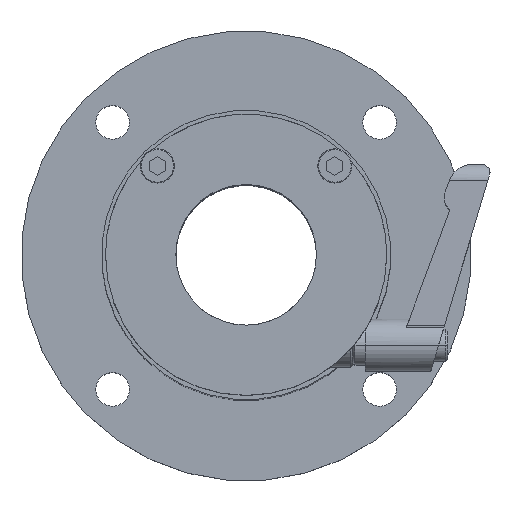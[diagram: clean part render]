
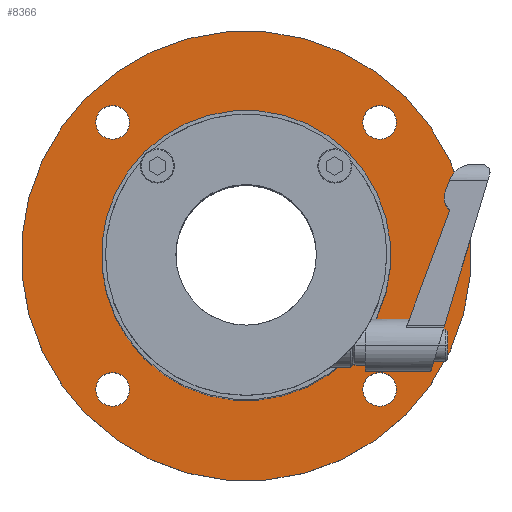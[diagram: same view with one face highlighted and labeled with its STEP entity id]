
A CAD part, top view. The second image highlights one B-rep face of the part: STEP entity #8366.
In plain terms, the highlighted planar face has unit normal (0, 0, 1).
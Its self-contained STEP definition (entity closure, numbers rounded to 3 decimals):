
#26 = AXIS2_PLACEMENT_3D ( 'NONE', #1949, #8295, #3979 ) ;
#104 = EDGE_LOOP ( 'NONE', ( #7844, #1511 ) ) ;
#124 = ORIENTED_EDGE ( 'NONE', *, *, #1507, .T. ) ;
#164 = VERTEX_POINT ( 'NONE', #9029 ) ;
#240 = DIRECTION ( 'NONE',  ( -0.707, 0.707, 0. ) ) ;
#296 = PLANE ( 'NONE',  #6327 ) ;
#352 = CIRCLE ( 'NONE', #7277, 4.188 ) ;
#423 = DIRECTION ( 'NONE',  ( -0.707, -0.707, 0. ) ) ;
#445 = DIRECTION ( 'NONE',  ( 0., 0., -1. ) ) ;
#496 = EDGE_CURVE ( 'NONE', #5729, #3247, #6717, .T. ) ;
#502 = AXIS2_PLACEMENT_3D ( 'NONE', #1105, #3818, #6800 ) ;
#651 = EDGE_LOOP ( 'NONE', ( #6822, #6470 ) ) ;
#766 = CARTESIAN_POINT ( 'NONE',  ( 35.216, 27.865, 92.392 ) ) ;
#789 = CARTESIAN_POINT ( 'NONE',  ( -37.616, -44.967, 92.392 ) ) ;
#791 = CARTESIAN_POINT ( 'NONE',  ( -28.29, 30.827, 92.392 ) ) ;
#1105 = CARTESIAN_POINT ( 'NONE',  ( 1.982, -5.369, 92.392 ) ) ;
#1245 = CARTESIAN_POINT ( 'NONE',  ( -28.29, -41.564, 92.392 ) ) ;
#1298 = CIRCLE ( 'NONE', #4977, 4.188 ) ;
#1381 = DIRECTION ( 'NONE',  ( 0.707, -0.707, 0. ) ) ;
#1382 = EDGE_LOOP ( 'NONE', ( #124, #6516 ) ) ;
#1423 = VERTEX_POINT ( 'NONE', #3656 ) ;
#1507 = EDGE_CURVE ( 'NONE', #8161, #5897, #5578, .T. ) ;
#1511 = ORIENTED_EDGE ( 'NONE', *, *, #9187, .F. ) ;
#1581 = DIRECTION ( 'NONE',  ( 0., 0., 1. ) ) ;
#1597 = DIRECTION ( 'NONE',  ( -0.707, -0.707, 0. ) ) ;
#1627 = DIRECTION ( 'NONE',  ( 0., 0., -1. ) ) ;
#1676 = FACE_BOUND ( 'NONE', #3166, .T. ) ;
#1822 = CIRCLE ( 'NONE', #8632, 4.188 ) ;
#1858 = DIRECTION ( 'NONE',  ( 0., 0., -1. ) ) ;
#1949 = CARTESIAN_POINT ( 'NONE',  ( 35.216, 27.865, 92.392 ) ) ;
#1979 = CARTESIAN_POINT ( 'NONE',  ( 1.982, -5.369, 92.392 ) ) ;
#2004 = VERTEX_POINT ( 'NONE', #6414 ) ;
#2116 = ORIENTED_EDGE ( 'NONE', *, *, #4138, .T. ) ;
#2218 = CARTESIAN_POINT ( 'NONE',  ( 41.58, 34.229, 92.392 ) ) ;
#2288 = CARTESIAN_POINT ( 'NONE',  ( 1.982, -5.369, 92.392 ) ) ;
#2396 = CIRCLE ( 'NONE', #26, 4.188 ) ;
#2707 = DIRECTION ( 'NONE',  ( -0.707, -0.707, 0. ) ) ;
#2847 = DIRECTION ( 'NONE',  ( 0., 0., -1. ) ) ;
#2886 = AXIS2_PLACEMENT_3D ( 'NONE', #5382, #1858, #4714 ) ;
#2981 = CARTESIAN_POINT ( 'NONE',  ( 35.216, -38.603, 92.392 ) ) ;
#3058 = FACE_BOUND ( 'NONE', #1382, .T. ) ;
#3068 = ORIENTED_EDGE ( 'NONE', *, *, #8032, .T. ) ;
#3104 = CARTESIAN_POINT ( 'NONE',  ( -30.545, -37.896, 92.392 ) ) ;
#3166 = EDGE_LOOP ( 'NONE', ( #6870, #6272 ) ) ;
#3247 = VERTEX_POINT ( 'NONE', #2218 ) ;
#3430 = CIRCLE ( 'NONE', #7000, 4.188 ) ;
#3656 = CARTESIAN_POINT ( 'NONE',  ( 32.255, 30.827, 92.392 ) ) ;
#3818 = DIRECTION ( 'NONE',  ( 0., 0., -1. ) ) ;
#3957 = VERTEX_POINT ( 'NONE', #4956 ) ;
#3979 = DIRECTION ( 'NONE',  ( 0.707, -0.707, 0. ) ) ;
#4138 = EDGE_CURVE ( 'NONE', #2004, #6625, #9092, .T. ) ;
#4146 = CARTESIAN_POINT ( 'NONE',  ( -34.213, 24.904, 92.392 ) ) ;
#4177 = AXIS2_PLACEMENT_3D ( 'NONE', #4893, #7195, #4194 ) ;
#4194 = DIRECTION ( 'NONE',  ( -0.707, 0.707, 0. ) ) ;
#4426 = CARTESIAN_POINT ( 'NONE',  ( 38.178, 24.904, 92.392 ) ) ;
#4448 = EDGE_LOOP ( 'NONE', ( #7076, #3068 ) ) ;
#4610 = DIRECTION ( 'NONE',  ( 0., 0., -1. ) ) ;
#4628 = CARTESIAN_POINT ( 'NONE',  ( 32.255, -41.564, 92.392 ) ) ;
#4665 = CIRCLE ( 'NONE', #4822, 36. ) ;
#4714 = DIRECTION ( 'NONE',  ( 0.707, 0.707, 0. ) ) ;
#4770 = CIRCLE ( 'NONE', #5379, 56. ) ;
#4822 = AXIS2_PLACEMENT_3D ( 'NONE', #9072, #5544, #6356 ) ;
#4893 = CARTESIAN_POINT ( 'NONE',  ( -31.252, -38.603, 92.392 ) ) ;
#4956 = CARTESIAN_POINT ( 'NONE',  ( -34.213, -35.642, 92.392 ) ) ;
#4977 = AXIS2_PLACEMENT_3D ( 'NONE', #5944, #1627, #240 ) ;
#5099 = FACE_BOUND ( 'NONE', #4448, .T. ) ;
#5191 = FACE_BOUND ( 'NONE', #651, .T. ) ;
#5214 = DIRECTION ( 'NONE',  ( 0., 0., -1. ) ) ;
#5241 = DIRECTION ( 'NONE',  ( -0.707, 0.707, 0. ) ) ;
#5379 = AXIS2_PLACEMENT_3D ( 'NONE', #2288, #4610, #1597 ) ;
#5382 = CARTESIAN_POINT ( 'NONE',  ( -31.252, 27.865, 92.392 ) ) ;
#5544 = DIRECTION ( 'NONE',  ( 0., 0., -1. ) ) ;
#5578 = CIRCLE ( 'NONE', #2886, 4.188 ) ;
#5729 = VERTEX_POINT ( 'NONE', #789 ) ;
#5868 = DIRECTION ( 'NONE',  ( 0., 0., -1. ) ) ;
#5897 = VERTEX_POINT ( 'NONE', #4146 ) ;
#5944 = CARTESIAN_POINT ( 'NONE',  ( -31.252, -38.603, 92.392 ) ) ;
#6272 = ORIENTED_EDGE ( 'NONE', *, *, #8319, .T. ) ;
#6327 = AXIS2_PLACEMENT_3D ( 'NONE', #3104, #1581, #5241 ) ;
#6356 = DIRECTION ( 'NONE',  ( -0.707, -0.707, 0. ) ) ;
#6405 = CIRCLE ( 'NONE', #4177, 4.188 ) ;
#6414 = CARTESIAN_POINT ( 'NONE',  ( 38.178, -35.642, 92.392 ) ) ;
#6470 = ORIENTED_EDGE ( 'NONE', *, *, #6841, .T. ) ;
#6516 = ORIENTED_EDGE ( 'NONE', *, *, #6962, .T. ) ;
#6625 = VERTEX_POINT ( 'NONE', #4628 ) ;
#6683 = FACE_OUTER_BOUND ( 'NONE', #104, .T. ) ;
#6717 = CIRCLE ( 'NONE', #502, 56. ) ;
#6800 = DIRECTION ( 'NONE',  ( -0.707, -0.707, 0. ) ) ;
#6822 = ORIENTED_EDGE ( 'NONE', *, *, #6864, .T. ) ;
#6841 = EDGE_CURVE ( 'NONE', #1423, #9194, #2396, .T. ) ;
#6846 = VERTEX_POINT ( 'NONE', #1245 ) ;
#6864 = EDGE_CURVE ( 'NONE', #9194, #1423, #352, .T. ) ;
#6870 = ORIENTED_EDGE ( 'NONE', *, *, #9032, .T. ) ;
#6908 = CARTESIAN_POINT ( 'NONE',  ( 35.216, -38.603, 92.392 ) ) ;
#6962 = EDGE_CURVE ( 'NONE', #5897, #8161, #1822, .T. ) ;
#7000 = AXIS2_PLACEMENT_3D ( 'NONE', #2981, #5868, #7336 ) ;
#7076 = ORIENTED_EDGE ( 'NONE', *, *, #7221, .T. ) ;
#7195 = DIRECTION ( 'NONE',  ( 0., 0., -1. ) ) ;
#7221 = EDGE_CURVE ( 'NONE', #9145, #164, #4665, .T. ) ;
#7277 = AXIS2_PLACEMENT_3D ( 'NONE', #766, #2847, #1381 ) ;
#7336 = DIRECTION ( 'NONE',  ( -0.707, -0.707, 0. ) ) ;
#7340 = DIRECTION ( 'NONE',  ( 0.707, 0.707, 0. ) ) ;
#7345 = AXIS2_PLACEMENT_3D ( 'NONE', #1979, #445, #2707 ) ;
#7453 = DIRECTION ( 'NONE',  ( 0., 0., -1. ) ) ;
#7844 = ORIENTED_EDGE ( 'NONE', *, *, #496, .F. ) ;
#7854 = EDGE_LOOP ( 'NONE', ( #7868, #2116 ) ) ;
#7868 = ORIENTED_EDGE ( 'NONE', *, *, #9105, .T. ) ;
#8032 = EDGE_CURVE ( 'NONE', #164, #9145, #9169, .T. ) ;
#8161 = VERTEX_POINT ( 'NONE', #791 ) ;
#8295 = DIRECTION ( 'NONE',  ( 0., 0., -1. ) ) ;
#8319 = EDGE_CURVE ( 'NONE', #6846, #3957, #1298, .T. ) ;
#8366 = ADVANCED_FACE ( 'NONE', ( #6683, #3058, #5191, #8639, #1676, #5099 ), #296, .T. ) ;
#8629 = AXIS2_PLACEMENT_3D ( 'NONE', #6908, #7453, #423 ) ;
#8632 = AXIS2_PLACEMENT_3D ( 'NONE', #8753, #5214, #7340 ) ;
#8639 = FACE_BOUND ( 'NONE', #7854, .T. ) ;
#8699 = CARTESIAN_POINT ( 'NONE',  ( -23.473, -30.825, 92.392 ) ) ;
#8753 = CARTESIAN_POINT ( 'NONE',  ( -31.252, 27.865, 92.392 ) ) ;
#9029 = CARTESIAN_POINT ( 'NONE',  ( 27.438, 20.087, 92.392 ) ) ;
#9032 = EDGE_CURVE ( 'NONE', #3957, #6846, #6405, .T. ) ;
#9072 = CARTESIAN_POINT ( 'NONE',  ( 1.982, -5.369, 92.392 ) ) ;
#9092 = CIRCLE ( 'NONE', #8629, 4.188 ) ;
#9105 = EDGE_CURVE ( 'NONE', #6625, #2004, #3430, .T. ) ;
#9145 = VERTEX_POINT ( 'NONE', #8699 ) ;
#9169 = CIRCLE ( 'NONE', #7345, 36. ) ;
#9187 = EDGE_CURVE ( 'NONE', #3247, #5729, #4770, .T. ) ;
#9194 = VERTEX_POINT ( 'NONE', #4426 ) ;
